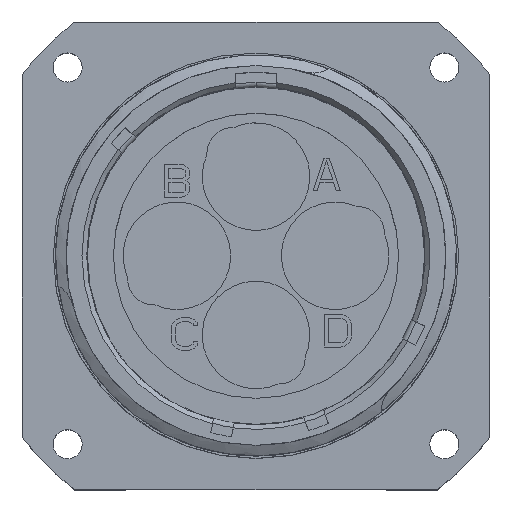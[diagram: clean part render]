
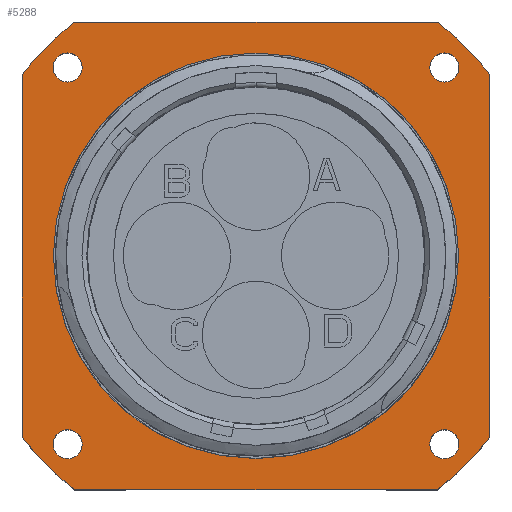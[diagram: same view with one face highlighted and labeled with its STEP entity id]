
A CAD part, top view. The second image highlights one B-rep face of the part: STEP entity #5288.
In plain terms, the highlighted planar face has unit normal (0, 0, 1).
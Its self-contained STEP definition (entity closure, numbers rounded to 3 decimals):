
#72=CARTESIAN_POINT('',(0.,0.,-20.765));
#73=DIRECTION('',(0.,0.,-1.));
#74=DIRECTION('',(0.,1.,0.));
#75=AXIS2_PLACEMENT_3D('',#72,#73,#74);
#113=CARTESIAN_POINT('',(0.,0.,-20.765));
#114=DIRECTION('',(0.,0.,-1.));
#115=DIRECTION('',(0.613,0.79,0.));
#116=AXIS2_PLACEMENT_3D('',#113,#114,#115);
#118=DIRECTION('',(0.,-1.,0.));
#119=VECTOR('',#118,28.294);
#120=CARTESIAN_POINT('',(18.231,14.147,-20.765));
#121=LINE('',#120,#119);
#122=CARTESIAN_POINT('',(0.,0.,-20.765));
#123=DIRECTION('',(0.,0.,-1.));
#124=DIRECTION('',(0.79,-0.613,0.));
#125=AXIS2_PLACEMENT_3D('',#122,#123,#124);
#127=DIRECTION('',(-1.,0.,0.));
#128=VECTOR('',#127,28.294);
#129=CARTESIAN_POINT('',(14.147,-18.231,-20.765));
#130=LINE('',#129,#128);
#131=CARTESIAN_POINT('',(0.,0.,-20.765));
#132=DIRECTION('',(0.,0.,-1.));
#133=DIRECTION('',(-0.613,-0.79,0.));
#134=AXIS2_PLACEMENT_3D('',#131,#132,#133);
#136=DIRECTION('',(0.,1.,0.));
#137=VECTOR('',#136,28.294);
#138=CARTESIAN_POINT('',(-18.231,-14.147,-20.765));
#139=LINE('',#138,#137);
#140=CARTESIAN_POINT('',(0.,0.,-20.765));
#141=DIRECTION('',(0.,0.,-1.));
#142=DIRECTION('',(-0.79,0.613,0.));
#143=AXIS2_PLACEMENT_3D('',#140,#141,#142);
#145=DIRECTION('',(1.,0.,0.));
#146=VECTOR('',#145,28.294);
#147=CARTESIAN_POINT('',(-14.147,18.231,-20.765));
#148=LINE('',#147,#146);
#149=CARTESIAN_POINT('',(-14.681,14.681,-20.765));
#150=DIRECTION('',(0.,0.,-1.));
#151=DIRECTION('',(-1.,0.,0.));
#152=AXIS2_PLACEMENT_3D('',#149,#150,#151);
#154=CARTESIAN_POINT('',(-14.681,14.681,-20.765));
#155=DIRECTION('',(0.,0.,-1.));
#156=DIRECTION('',(1.,0.,0.));
#157=AXIS2_PLACEMENT_3D('',#154,#155,#156);
#159=CARTESIAN_POINT('',(-14.681,-14.681,-20.765));
#160=DIRECTION('',(0.,0.,-1.));
#161=DIRECTION('',(-1.,0.,0.));
#162=AXIS2_PLACEMENT_3D('',#159,#160,#161);
#164=CARTESIAN_POINT('',(-14.681,-14.681,-20.765));
#165=DIRECTION('',(0.,0.,-1.));
#166=DIRECTION('',(1.,0.,0.));
#167=AXIS2_PLACEMENT_3D('',#164,#165,#166);
#169=CARTESIAN_POINT('',(14.681,-14.681,-20.765));
#170=DIRECTION('',(0.,0.,-1.));
#171=DIRECTION('',(-1.,0.,0.));
#172=AXIS2_PLACEMENT_3D('',#169,#170,#171);
#174=CARTESIAN_POINT('',(14.681,-14.681,-20.765));
#175=DIRECTION('',(0.,0.,-1.));
#176=DIRECTION('',(1.,0.,0.));
#177=AXIS2_PLACEMENT_3D('',#174,#175,#176);
#179=CARTESIAN_POINT('',(14.681,14.681,-20.765));
#180=DIRECTION('',(0.,0.,-1.));
#181=DIRECTION('',(-1.,0.,0.));
#182=AXIS2_PLACEMENT_3D('',#179,#180,#181);
#184=CARTESIAN_POINT('',(14.681,14.681,-20.765));
#185=DIRECTION('',(0.,0.,-1.));
#186=DIRECTION('',(1.,0.,0.));
#187=AXIS2_PLACEMENT_3D('',#184,#185,#186);
#1001=CARTESIAN_POINT('',(0.,0.,-20.765));
#1002=DIRECTION('',(0.,0.,-1.));
#1003=DIRECTION('',(0.,-1.,0.));
#1004=AXIS2_PLACEMENT_3D('',#1001,#1002,#1003);
#4216=CARTESIAN_POINT('',(14.147,18.231,-20.765));
#4217=CARTESIAN_POINT('',(18.231,14.147,-20.765));
#4218=VERTEX_POINT('',#4216);
#4219=VERTEX_POINT('',#4217);
#4220=CARTESIAN_POINT('',(18.231,-14.147,-20.765));
#4221=VERTEX_POINT('',#4220);
#4222=CARTESIAN_POINT('',(14.147,-18.231,-20.765));
#4223=VERTEX_POINT('',#4222);
#4224=CARTESIAN_POINT('',(-14.147,-18.231,-20.765));
#4225=VERTEX_POINT('',#4224);
#4226=CARTESIAN_POINT('',(-18.231,-14.147,-20.765));
#4227=VERTEX_POINT('',#4226);
#4228=CARTESIAN_POINT('',(-18.231,14.147,-20.765));
#4229=VERTEX_POINT('',#4228);
#4230=CARTESIAN_POINT('',(-14.147,18.231,-20.765));
#4231=VERTEX_POINT('',#4230);
#4232=CARTESIAN_POINT('',(0.,15.799,-20.765));
#4233=CARTESIAN_POINT('',(0.,-15.799,-20.765));
#4234=VERTEX_POINT('',#4232);
#4235=VERTEX_POINT('',#4233);
#4356=CARTESIAN_POINT('',(-15.817,14.681,-20.765));
#4357=CARTESIAN_POINT('',(-13.546,14.681,-20.765));
#4358=VERTEX_POINT('',#4356);
#4359=VERTEX_POINT('',#4357);
#4360=CARTESIAN_POINT('',(-15.817,-14.681,-20.765));
#4361=CARTESIAN_POINT('',(-13.546,-14.681,-20.765));
#4362=VERTEX_POINT('',#4360);
#4363=VERTEX_POINT('',#4361);
#4364=CARTESIAN_POINT('',(13.546,-14.681,-20.765));
#4365=CARTESIAN_POINT('',(15.817,-14.681,-20.765));
#4366=VERTEX_POINT('',#4364);
#4367=VERTEX_POINT('',#4365);
#4368=CARTESIAN_POINT('',(13.546,14.681,-20.765));
#4369=CARTESIAN_POINT('',(15.817,14.681,-20.765));
#4370=VERTEX_POINT('',#4368);
#4371=VERTEX_POINT('',#4369);
#5236=CARTESIAN_POINT('',(0.,0.,-20.765));
#5237=DIRECTION('',(0.,0.,-1.));
#5238=DIRECTION('',(-1.,0.,0.));
#5239=AXIS2_PLACEMENT_3D('',#5236,#5237,#5238);
#5240=PLANE('',#5239);
#5242=ORIENTED_EDGE('',*,*,#5241,.T.);
#5244=ORIENTED_EDGE('',*,*,#5243,.T.);
#5246=ORIENTED_EDGE('',*,*,#5245,.T.);
#5248=ORIENTED_EDGE('',*,*,#5247,.T.);
#5250=ORIENTED_EDGE('',*,*,#5249,.T.);
#5252=ORIENTED_EDGE('',*,*,#5251,.T.);
#5254=ORIENTED_EDGE('',*,*,#5253,.T.);
#5256=ORIENTED_EDGE('',*,*,#5255,.T.);
#5257=EDGE_LOOP('',(#5242,#5244,#5246,#5248,#5250,#5252,#5254,#5256));
#5258=FACE_OUTER_BOUND('',#5257,.F.);
#5259=ORIENTED_EDGE('',*,*,#5205,.F.);
#5261=ORIENTED_EDGE('',*,*,#5260,.F.);
#5262=EDGE_LOOP('',(#5259,#5261));
#5263=FACE_BOUND('',#5262,.F.);
#5265=ORIENTED_EDGE('',*,*,#5264,.F.);
#5267=ORIENTED_EDGE('',*,*,#5266,.F.);
#5268=EDGE_LOOP('',(#5265,#5267));
#5269=FACE_BOUND('',#5268,.F.);
#5271=ORIENTED_EDGE('',*,*,#5270,.F.);
#5273=ORIENTED_EDGE('',*,*,#5272,.F.);
#5274=EDGE_LOOP('',(#5271,#5273));
#5275=FACE_BOUND('',#5274,.F.);
#5277=ORIENTED_EDGE('',*,*,#5276,.F.);
#5279=ORIENTED_EDGE('',*,*,#5278,.F.);
#5280=EDGE_LOOP('',(#5277,#5279));
#5281=FACE_BOUND('',#5280,.F.);
#5283=ORIENTED_EDGE('',*,*,#5282,.F.);
#5285=ORIENTED_EDGE('',*,*,#5284,.F.);
#5286=EDGE_LOOP('',(#5283,#5285));
#5287=FACE_BOUND('',#5286,.F.);
#5288=ADVANCED_FACE('',(#5258,#5263,#5269,#5275,#5281,#5287),#5240,.F.);
#76=CIRCLE('',#75,15.799);
#117=CIRCLE('',#116,23.076);
#126=CIRCLE('',#125,23.076);
#135=CIRCLE('',#134,23.076);
#144=CIRCLE('',#143,23.076);
#153=CIRCLE('',#152,1.135);
#158=CIRCLE('',#157,1.135);
#163=CIRCLE('',#162,1.135);
#168=CIRCLE('',#167,1.135);
#173=CIRCLE('',#172,1.135);
#178=CIRCLE('',#177,1.135);
#183=CIRCLE('',#182,1.135);
#188=CIRCLE('',#187,1.135);
#1005=CIRCLE('',#1004,15.799);
#5205=EDGE_CURVE('',#4234,#4235,#76,.T.);
#5241=EDGE_CURVE('',#4218,#4219,#117,.T.);
#5243=EDGE_CURVE('',#4219,#4221,#121,.T.);
#5245=EDGE_CURVE('',#4221,#4223,#126,.T.);
#5247=EDGE_CURVE('',#4223,#4225,#130,.T.);
#5249=EDGE_CURVE('',#4225,#4227,#135,.T.);
#5251=EDGE_CURVE('',#4227,#4229,#139,.T.);
#5253=EDGE_CURVE('',#4229,#4231,#144,.T.);
#5255=EDGE_CURVE('',#4231,#4218,#148,.T.);
#5260=EDGE_CURVE('',#4235,#4234,#1005,.T.);
#5264=EDGE_CURVE('',#4358,#4359,#153,.T.);
#5266=EDGE_CURVE('',#4359,#4358,#158,.T.);
#5270=EDGE_CURVE('',#4362,#4363,#163,.T.);
#5272=EDGE_CURVE('',#4363,#4362,#168,.T.);
#5276=EDGE_CURVE('',#4366,#4367,#173,.T.);
#5278=EDGE_CURVE('',#4367,#4366,#178,.T.);
#5282=EDGE_CURVE('',#4370,#4371,#183,.T.);
#5284=EDGE_CURVE('',#4371,#4370,#188,.T.);
